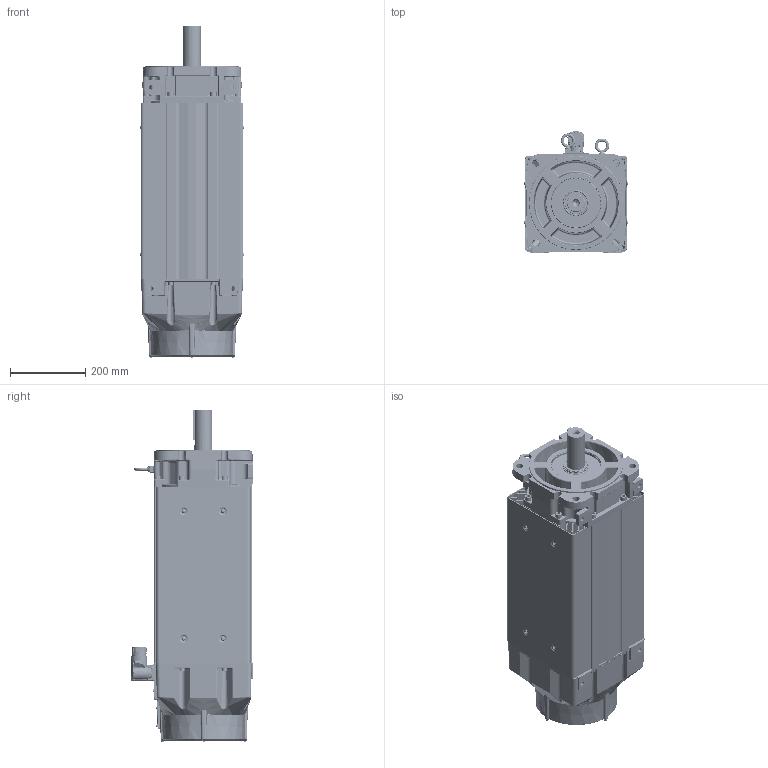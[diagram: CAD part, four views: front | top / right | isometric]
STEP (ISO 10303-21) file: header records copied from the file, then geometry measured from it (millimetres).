
FILE_DESCRIPTION((''),'2;1');
FILE_NAME('VPC-B30049-QJ14FX_ASM','2016-09-27T',('SRGaddam'),('Rockwell Automation'),'PRO/ENGINEER BY PARAMETRIC TECHNOLOGY CORPORATION, 2012480','PRO/ENGINEER BY PARAMETRIC TECHNOLOGY CORPORATION, 2012480','');
FILE_SCHEMA(('CONFIG_CONTROL_DESIGN'));
Products named in the file (38): 10001404634_AF0; 10001404629_AF6; 10001404635_ASM; 10001585735; 10001441960; 10001737030; 10001448102; 10001587021; 10001405269_AF71; 10001405240_AF78; 10001405369_ASM; 10001946256; 10001956852; 10001989665; 10001713549_ASM; M4X7X14-SOCHD-CAP-SCR; 10001978970; 10001336508; 10001587431; CH4X063; 10001299929; 10001284567; 10000172464; 10001445961; 221404-Q12; 10000231113; 10002279234; 10001443420_ASM; 10001609981; 0002-5004; 10001586887; 10001439772; 0011-2084; 142408_740; PRT0002_740; 142408-1_740_ASM; M740_ASM; VPC-B30049-QJ14FX_ASM
Assembly tree (73 placements, depth 4):
  VPC-B30049-QJ14FX_ASM
    10001404635_ASM
      10001404634_AF0
      10001404629_AF6
    10001585735  x8
    10001441960
    10001737030
    10001448102  x2
    10001587021  x8
    10001405369_ASM
      10001405269_AF71
      10001405240_AF78
    10001443420_ASM
      10001946256
      10001713549_ASM
        10001956852
        10001989665
      M4X7X14-SOCHD-CAP-SCR  x4
      10001978970
      10001336508
      10001587431
      CH4X063  x2
      10001299929
      10001284567
      10000172464  x4
      10001445961
      221404-Q12  x5
      10000231113
      10002279234
    10001609981
    0002-5004  x2
    10001586887  x6
    10001439772
    0011-2084
    M740_ASM
      142408-1_740_ASM
        142408_740
        PRT0002_740
      221404-Q12  x4
Bounding box: 275.91 x 324.15 x 882.35 mm (x, y, z)
Volume: 13871747.1 mm3; surface area: 3565727.9 mm2
Topology: 79 solids, 80 shells, 7226 faces, 17062 edges, 10219 vertices
Faces by surface type: cylinder 2218, plane 2045, bspline 1177, cone 1054, torus 593, sphere 134, extrusion 5
Entity records: 206990 total; most frequent: CARTESIAN_POINT 89843, ORIENTED_EDGE 25106, DIRECTION 23080, EDGE_CURVE 12553, AXIS2_PLACEMENT_3D 8866, VERTEX_POINT 7725, EDGE_LOOP 5688, VECTOR 5348
